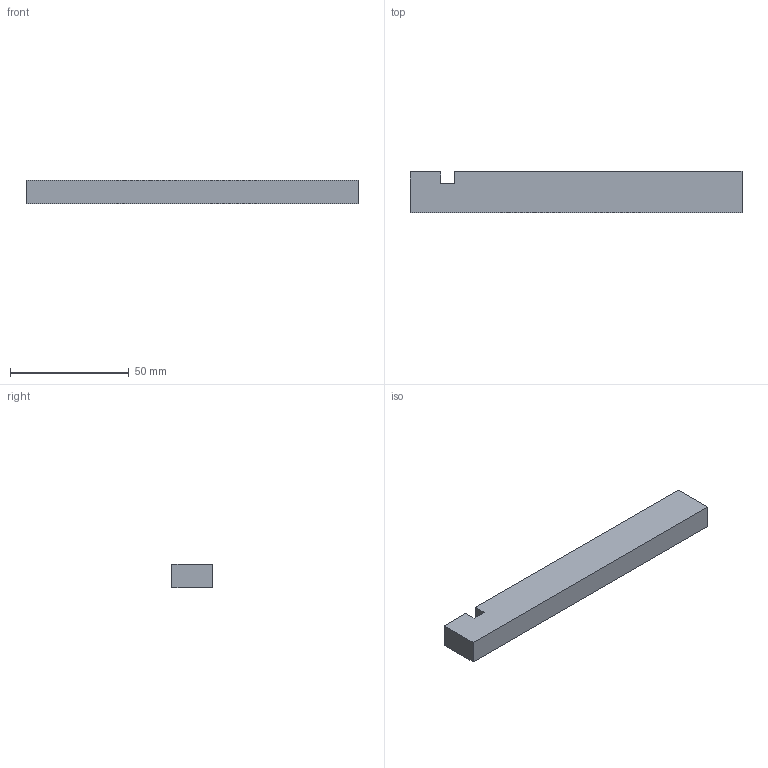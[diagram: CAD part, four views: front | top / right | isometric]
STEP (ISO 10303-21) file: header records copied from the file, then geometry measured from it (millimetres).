
FILE_DESCRIPTION (( 'STEP AP203' ), '1' );
FILE_NAME ('AB810FJ.STEP', '2024-02-22T13:14:58', ( '' ), ( '' ), 'SwSTEP 2.0', 'SolidWorks 2020', '' );
FILE_SCHEMA (( 'CONFIG_CONTROL_DESIGN' ));
Length unit declared in the file: millimetre
Products named in the file (1): AB810FJ
Bounding box: 139.6 x 17.47 x 10 mm (x, y, z)
Volume: 24043.4 mm3; surface area: 8048.4 mm2
Topology: 1 solids, 1 shells, 10 faces, 24 edges, 16 vertices
Faces by surface type: plane 10
Entity records: 365 total; most frequent: CARTESIAN_POINT 51, ORIENTED_EDGE 48, DIRECTION 46, LINE 24, EDGE_CURVE 24, VECTOR 24, VERTEX_POINT 16, AXIS2_PLACEMENT_3D 11
